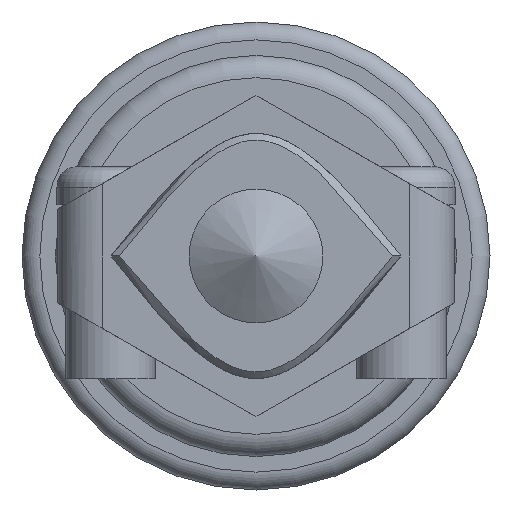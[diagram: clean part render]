
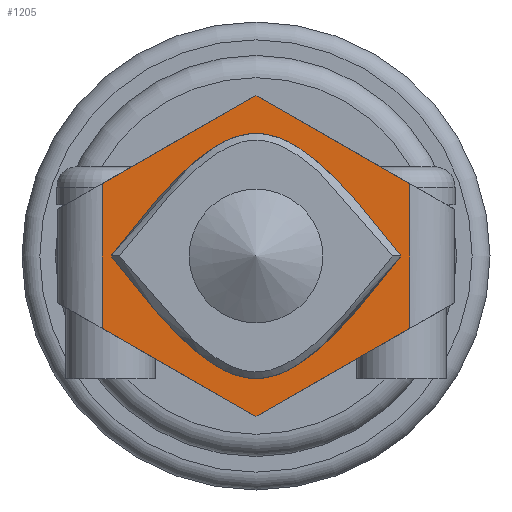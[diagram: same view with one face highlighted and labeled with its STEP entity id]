
A CAD part, left-side view. The second image highlights one B-rep face of the part: STEP entity #1205.
In plain terms, the highlighted planar face has unit normal (-1, 0, 0).
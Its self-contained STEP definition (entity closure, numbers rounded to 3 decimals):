
#3 = EDGE_CURVE ( 'NONE', #341, #1020, #2108, .T. ) ;
#43 = LINE ( 'NONE', #761, #936 ) ;
#55 = CARTESIAN_POINT ( 'NONE',  ( 25.913, 1.476, 25.194 ) ) ;
#59 = LINE ( 'NONE', #2306, #2126 ) ;
#73 = ORIENTED_EDGE ( 'NONE', *, *, #2051, .T. ) ;
#106 = CARTESIAN_POINT ( 'NONE',  ( 25.913, -9.758, 24.698 ) ) ;
#112 = VERTEX_POINT ( 'NONE', #106 ) ;
#201 = LINE ( 'NONE', #758, #2168 ) ;
#230 = DIRECTION ( 'NONE',  ( 0., 0., 1. ) ) ;
#277 = CARTESIAN_POINT ( 'NONE',  ( 25.913, -11.758, 30.044 ) ) ;
#313 = ORIENTED_EDGE ( 'NONE', *, *, #1308, .T. ) ;
#315 = FACE_BOUND ( 'NONE', #853, .T. ) ;
#321 = CARTESIAN_POINT ( 'NONE',  ( 25.913, 3.642, 27.944 ) ) ;
#336 = DIRECTION ( 'NONE',  ( 1., 0., 0. ) ) ;
#341 = VERTEX_POINT ( 'NONE', #1326 ) ;
#418 = EDGE_CURVE ( 'NONE', #112, #341, #59, .T. ) ;
#441 = CARTESIAN_POINT ( 'NONE',  ( 25.913, -7.191, 25.194 ) ) ;
#451 = CARTESIAN_POINT ( 'NONE',  ( 25.913, -2.858, 19.694 ) ) ;
#452 = EDGE_CURVE ( 'NONE', #1321, #1203, #1922, .T. ) ;
#462 = CARTESIAN_POINT ( 'NONE',  ( 25.913, -9.358, 27.944 ) ) ;
#501 = CARTESIAN_POINT ( 'NONE',  ( 25.913, 4.042, 31.19 ) ) ;
#523 = CARTESIAN_POINT ( 'NONE',  ( 25.913, -2.858, 20.744 ) ) ;
#563 = EDGE_CURVE ( 'NONE', #1815, #1739, #2367, .T. ) ;
#578 = AXIS2_PLACEMENT_3D ( 'NONE', #1256, #336, #1830 ) ;
#600 = EDGE_LOOP ( 'NONE', ( #1903, #2118, #907, #313, #73, #1231 ) ) ;
#609 = CARTESIAN_POINT ( 'NONE',  ( 25.913, 3.642, 27.944 ) ) ;
#758 = CARTESIAN_POINT ( 'NONE',  ( 25.913, 4.042, 30.044 ) ) ;
#761 = CARTESIAN_POINT ( 'NONE',  ( 25.913, -11.758, 25.844 ) ) ;
#808 = EDGE_CURVE ( 'NONE', #1739, #1815, #1378, .T. ) ;
#811 = VECTOR ( 'NONE', #838, 1000. ) ;
#821 = CARTESIAN_POINT ( 'NONE',  ( 25.913, -9.358, 27.944 ) ) ;
#834 = CARTESIAN_POINT ( 'NONE',  ( 25.913, 4.042, 24.698 ) ) ;
#838 = DIRECTION ( 'NONE',  ( 0., 0.868, 0.497 ) ) ;
#853 = EDGE_LOOP ( 'NONE', ( #961, #2028 ) ) ;
#884 = CARTESIAN_POINT ( 'NONE',  ( 25.913, 1.476, 30.694 ) ) ;
#905 = LINE ( 'NONE', #2376, #1002 ) ;
#907 = ORIENTED_EDGE ( 'NONE', *, *, #3, .T. ) ;
#936 = VECTOR ( 'NONE', #1322, 1000. ) ;
#947 = CARTESIAN_POINT ( 'NONE',  ( 25.913, 3.642, 27.944 ) ) ;
#961 = ORIENTED_EDGE ( 'NONE', *, *, #808, .F. ) ;
#1002 = VECTOR ( 'NONE', #1889, 1000. ) ;
#1020 = VERTEX_POINT ( 'NONE', #2380 ) ;
#1079 = CARTESIAN_POINT ( 'NONE',  ( 25.913, -9.358, 27.944 ) ) ;
#1203 = VERTEX_POINT ( 'NONE', #523 ) ;
#1205 = ADVANCED_FACE ( 'NONE', ( #1979, #315 ), #1394, .F. ) ;
#1231 = ORIENTED_EDGE ( 'NONE', *, *, #452, .T. ) ;
#1256 = CARTESIAN_POINT ( 'NONE',  ( 25.913, 6.042, 30.044 ) ) ;
#1308 = EDGE_CURVE ( 'NONE', #1020, #1564, #905, .T. ) ;
#1320 = DIRECTION ( 'NONE',  ( 0., 0., -1. ) ) ;
#1321 = VERTEX_POINT ( 'NONE', #834 ) ;
#1322 = DIRECTION ( 'NONE',  ( 0., -0.868, 0.497 ) ) ;
#1326 = CARTESIAN_POINT ( 'NONE',  ( 25.913, -9.758, 31.19 ) ) ;
#1349 = DIRECTION ( 'NONE',  ( 0., -0.868, -0.497 ) ) ;
#1378 = B_SPLINE_CURVE_WITH_KNOTS ( 'NONE', 3,
 ( #609, #55, #451, #441, #821 ),
 .UNSPECIFIED., .F., .F.,
 ( 4, 1, 4 ),
 ( 0., 0.5, 1. ),
 .UNSPECIFIED. ) ;
#1394 = PLANE ( 'NONE',  #578 ) ;
#1564 = VERTEX_POINT ( 'NONE', #501 ) ;
#1684 = EDGE_CURVE ( 'NONE', #1203, #112, #43, .T. ) ;
#1739 = VERTEX_POINT ( 'NONE', #947 ) ;
#1768 = CARTESIAN_POINT ( 'NONE',  ( 25.913, -7.191, 30.694 ) ) ;
#1815 = VERTEX_POINT ( 'NONE', #462 ) ;
#1830 = DIRECTION ( 'NONE',  ( 0., 0., 1. ) ) ;
#1889 = DIRECTION ( 'NONE',  ( 0., 0.868, -0.497 ) ) ;
#1903 = ORIENTED_EDGE ( 'NONE', *, *, #1684, .T. ) ;
#1922 = LINE ( 'NONE', #2298, #2159 ) ;
#1979 = FACE_OUTER_BOUND ( 'NONE', #600, .T. ) ;
#2028 = ORIENTED_EDGE ( 'NONE', *, *, #563, .F. ) ;
#2051 = EDGE_CURVE ( 'NONE', #1564, #1321, #201, .T. ) ;
#2108 = LINE ( 'NONE', #277, #811 ) ;
#2118 = ORIENTED_EDGE ( 'NONE', *, *, #418, .T. ) ;
#2126 = VECTOR ( 'NONE', #230, 1000. ) ;
#2159 = VECTOR ( 'NONE', #1349, 1000. ) ;
#2167 = CARTESIAN_POINT ( 'NONE',  ( 25.913, -2.858, 36.194 ) ) ;
#2168 = VECTOR ( 'NONE', #1320, 1000. ) ;
#2298 = CARTESIAN_POINT ( 'NONE',  ( 25.913, 6.042, 25.844 ) ) ;
#2306 = CARTESIAN_POINT ( 'NONE',  ( 25.913, -9.758, 30.044 ) ) ;
#2367 = B_SPLINE_CURVE_WITH_KNOTS ( 'NONE', 3,
 ( #1079, #1768, #2167, #884, #321 ),
 .UNSPECIFIED., .F., .F.,
 ( 4, 1, 4 ),
 ( 0., 0.5, 1. ),
 .UNSPECIFIED. ) ;
#2376 = CARTESIAN_POINT ( 'NONE',  ( 25.913, 6.042, 30.044 ) ) ;
#2380 = CARTESIAN_POINT ( 'NONE',  ( 25.913, -2.858, 35.144 ) ) ;
